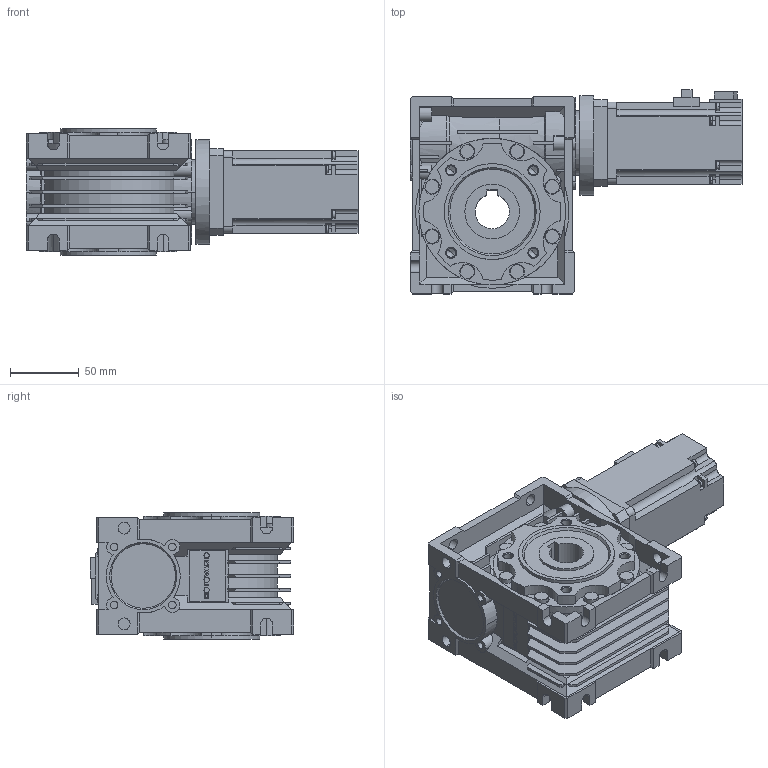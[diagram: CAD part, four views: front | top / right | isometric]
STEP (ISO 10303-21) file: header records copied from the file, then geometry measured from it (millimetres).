
FILE_DESCRIPTION(('FreeCAD Model'),'2;1');
FILE_NAME('Open CASCADE Shape Model','2024-07-02T15:54:42',(''),(''), 'Open CASCADE STEP processor 7.6','FreeCAD','Unknown');
FILE_SCHEMA(('AUTOMOTIVE_DESIGN { 1 0 10303 214 1 1 1 1 }'));
Length unit declared in the file: millimetre
Products named in the file (4): Unnamed; 050 71B5_001; NMRV040+60SQ_001; hg-kr43_1_001
Assembly tree (3 placements, depth 2):
  Unnamed
    050 71B5_001
    NMRV040+60SQ_001
    hg-kr43_1_001
Bounding box: 242.3 x 148.8 x 92 mm (x, y, z)
Volume: 1389955.8 mm3; surface area: 251792.4 mm2
Topology: 5 solids, 10 shells, 1096 faces, 2951 edges, 1921 vertices
Faces by surface type: plane 669, cylinder 348, cone 75, revolution 4
Full cylindrical faces by diameter (mm): 35 x2
Entity records: 34913 total; most frequent: CARTESIAN_POINT 6783, DIRECTION 5948, ORIENTED_EDGE 5870, EDGE_CURVE 2935, AXIS2_PLACEMENT_3D 2036, VERTEX_POINT 1921, LINE 1872, VECTOR 1872
